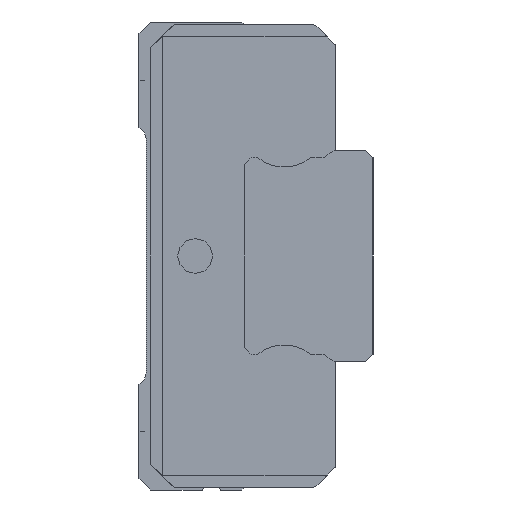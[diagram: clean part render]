
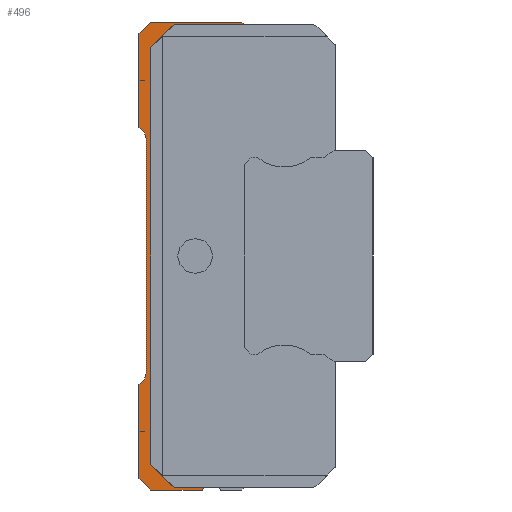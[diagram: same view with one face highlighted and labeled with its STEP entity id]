
A CAD part, left-side view. The second image highlights one B-rep face of the part: STEP entity #496.
In plain terms, the highlighted planar face has unit normal (-1, 0, 0).
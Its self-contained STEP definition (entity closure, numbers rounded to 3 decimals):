
#496 = ADVANCED_FACE( '', ( #1398 ), #1399, .F. );
#1398 = FACE_OUTER_BOUND( '', #2300, .T. );
#1399 = PLANE( '', #2301 );
#2300 = EDGE_LOOP( '', ( #5255, #5256, #5257, #5258, #5259, #5260, #5261, #5262, #5263, #5264, #5265, #5266, #5267, #5268, #5269, #5270, #5271, #5272 ) );
#2301 = AXIS2_PLACEMENT_3D( '', #5273, #5274, #5275 );
#5255 = ORIENTED_EDGE( '', *, *, #6057, .T. );
#5256 = ORIENTED_EDGE( '', *, *, #6201, .F. );
#5257 = ORIENTED_EDGE( '', *, *, #6199, .F. );
#5258 = ORIENTED_EDGE( '', *, *, #6197, .F. );
#5259 = ORIENTED_EDGE( '', *, *, #6195, .F. );
#5260 = ORIENTED_EDGE( '', *, *, #6193, .F. );
#5261 = ORIENTED_EDGE( '', *, *, #6191, .F. );
#5262 = ORIENTED_EDGE( '', *, *, #6189, .F. );
#5263 = ORIENTED_EDGE( '', *, *, #6187, .F. );
#5264 = ORIENTED_EDGE( '', *, *, #6185, .F. );
#5265 = ORIENTED_EDGE( '', *, *, #6183, .F. );
#5266 = ORIENTED_EDGE( '', *, *, #6181, .F. );
#5267 = ORIENTED_EDGE( '', *, *, #6179, .F. );
#5268 = ORIENTED_EDGE( '', *, *, #6177, .F. );
#5269 = ORIENTED_EDGE( '', *, *, #6088, .T. );
#5270 = ORIENTED_EDGE( '', *, *, #6121, .T. );
#5271 = ORIENTED_EDGE( '', *, *, #6118, .T. );
#5272 = ORIENTED_EDGE( '', *, *, #6047, .T. );
#5273 = CARTESIAN_POINT( '', ( 484.75, 1.5, 0. ) );
#5274 = DIRECTION( '', ( 1., 0., 0. ) );
#5275 = DIRECTION( '', ( 0., 0., -1. ) );
#6047 = EDGE_CURVE( '', #7508, #7506, #7509, .T. );
#6057 = EDGE_CURVE( '', #7506, #7523, #7525, .T. );
#6088 = EDGE_CURVE( '', #7576, #7574, #7577, .T. );
#6118 = EDGE_CURVE( '', #7623, #7508, #7624, .T. );
#6121 = EDGE_CURVE( '', #7574, #7623, #7627, .T. );
#6177 = EDGE_CURVE( '', #7576, #7701, #7702, .T. );
#6179 = EDGE_CURVE( '', #7701, #7704, #7705, .T. );
#6181 = EDGE_CURVE( '', #7704, #7707, #7708, .T. );
#6183 = EDGE_CURVE( '', #7707, #7710, #7711, .T. );
#6185 = EDGE_CURVE( '', #7710, #7713, #7714, .T. );
#6187 = EDGE_CURVE( '', #7713, #7716, #7717, .T. );
#6189 = EDGE_CURVE( '', #7716, #7719, #7720, .T. );
#6191 = EDGE_CURVE( '', #7719, #7722, #7723, .T. );
#6193 = EDGE_CURVE( '', #7722, #7725, #7726, .T. );
#6195 = EDGE_CURVE( '', #7725, #7728, #7729, .T. );
#6197 = EDGE_CURVE( '', #7728, #7731, #7732, .T. );
#6199 = EDGE_CURVE( '', #7731, #7734, #7735, .T. );
#6201 = EDGE_CURVE( '', #7734, #7523, #7737, .T. );
#7506 = VERTEX_POINT( '', #9356 );
#7508 = VERTEX_POINT( '', #9359 );
#7509 = LINE( '', #9360, #9361 );
#7523 = VERTEX_POINT( '', #9383 );
#7525 = LINE( '', #9386, #9387 );
#7574 = VERTEX_POINT( '', #9460 );
#7576 = VERTEX_POINT( '', #9463 );
#7577 = LINE( '', #9464, #9465 );
#7623 = VERTEX_POINT( '', #9539 );
#7624 = LINE( '', #9540, #9541 );
#7627 = LINE( '', #9546, #9547 );
#7701 = VERTEX_POINT( '', #9663 );
#7702 = CIRCLE( '', #9664, 0.5 );
#7704 = VERTEX_POINT( '', #9667 );
#7705 = LINE( '', #9668, #9669 );
#7707 = VERTEX_POINT( '', #9672 );
#7708 = LINE( '', #9673, #9674 );
#7710 = VERTEX_POINT( '', #9677 );
#7711 = LINE( '', #9678, #9679 );
#7713 = VERTEX_POINT( '', #9682 );
#7714 = LINE( '', #9683, #9684 );
#7716 = VERTEX_POINT( '', #9687 );
#7717 = CIRCLE( '', #9688, 0.5 );
#7719 = VERTEX_POINT( '', #9691 );
#7720 = LINE( '', #9692, #9693 );
#7722 = VERTEX_POINT( '', #9696 );
#7723 = CIRCLE( '', #9697, 0.5 );
#7725 = VERTEX_POINT( '', #9700 );
#7726 = LINE( '', #9701, #9702 );
#7728 = VERTEX_POINT( '', #9705 );
#7729 = LINE( '', #9706, #9707 );
#7731 = VERTEX_POINT( '', #9710 );
#7732 = LINE( '', #9711, #9712 );
#7734 = VERTEX_POINT( '', #9715 );
#7735 = LINE( '', #9716, #9717 );
#7737 = LINE( '', #9720, #9721 );
#9356 = CARTESIAN_POINT( '', ( 484.75, 8.5, 9.9 ) );
#9359 = CARTESIAN_POINT( '', ( 484.75, 9.5, 8.9 ) );
#9360 = CARTESIAN_POINT( '', ( 484.75, 9.725, 8.675 ) );
#9361 = VECTOR( '', #11405, 1. );
#9383 = CARTESIAN_POINT( '', ( 484.75, 5.5, 9.9 ) );
#9386 = CARTESIAN_POINT( '', ( 484.75, 5., 9.9 ) );
#9387 = VECTOR( '', #11415, 1. );
#9460 = CARTESIAN_POINT( '', ( 484.75, 8.5, -9.9 ) );
#9463 = CARTESIAN_POINT( '', ( 484.75, 7.2, -9.9 ) );
#9464 = CARTESIAN_POINT( '', ( 484.75, 2.1, -9.9 ) );
#9465 = VECTOR( '', #11456, 1. );
#9539 = CARTESIAN_POINT( '', ( 484.75, 9.5, -8.9 ) );
#9540 = CARTESIAN_POINT( '', ( 484.75, 9.5, -4.45 ) );
#9541 = VECTOR( '', #11488, 1. );
#9546 = CARTESIAN_POINT( '', ( 484.75, 9.225, -9.175 ) );
#9547 = VECTOR( '', #11491, 1. );
#9663 = CARTESIAN_POINT( '', ( 484.75, 7.3, -10. ) );
#9664 = AXIS2_PLACEMENT_3D( '', #11573, #11574, #11575 );
#9667 = CARTESIAN_POINT( '', ( 484.75, 9.5, -10. ) );
#9668 = CARTESIAN_POINT( '', ( 484.75, 7.3, -10. ) );
#9669 = VECTOR( '', #11577, 1. );
#9672 = CARTESIAN_POINT( '', ( 484.75, 10., -9.5 ) );
#9673 = CARTESIAN_POINT( '', ( 484.75, 9.5, -10. ) );
#9674 = VECTOR( '', #11579, 1. );
#9677 = CARTESIAN_POINT( '', ( 484.75, 10., -5.5 ) );
#9678 = CARTESIAN_POINT( '', ( 484.75, 10., -9.5 ) );
#9679 = VECTOR( '', #11581, 1. );
#9682 = CARTESIAN_POINT( '', ( 484.75, 9.855, -5.362 ) );
#9683 = CARTESIAN_POINT( '', ( 484.75, 10., -5.5 ) );
#9684 = VECTOR( '', #11583, 1. );
#9687 = CARTESIAN_POINT( '', ( 484.75, 9.7, -5. ) );
#9688 = AXIS2_PLACEMENT_3D( '', #11585, #11586, #11587 );
#9691 = CARTESIAN_POINT( '', ( 484.75, 9.7, 5. ) );
#9692 = CARTESIAN_POINT( '', ( 484.75, 9.7, -5. ) );
#9693 = VECTOR( '', #11589, 1. );
#9696 = CARTESIAN_POINT( '', ( 484.75, 9.855, 5.362 ) );
#9697 = AXIS2_PLACEMENT_3D( '', #11591, #11592, #11593 );
#9700 = CARTESIAN_POINT( '', ( 484.75, 10., 5.5 ) );
#9701 = CARTESIAN_POINT( '', ( 484.75, 9.855, 5.362 ) );
#9702 = VECTOR( '', #11595, 1. );
#9705 = CARTESIAN_POINT( '', ( 484.75, 10., 9.5 ) );
#9706 = CARTESIAN_POINT( '', ( 484.75, 10., 5.5 ) );
#9707 = VECTOR( '', #11597, 1. );
#9710 = CARTESIAN_POINT( '', ( 484.75, 9.5, 10. ) );
#9711 = CARTESIAN_POINT( '', ( 484.75, 10., 9.5 ) );
#9712 = VECTOR( '', #11599, 1. );
#9715 = CARTESIAN_POINT( '', ( 484.75, 5.6, 10. ) );
#9716 = CARTESIAN_POINT( '', ( 484.75, 9.5, 10. ) );
#9717 = VECTOR( '', #11601, 1. );
#9720 = CARTESIAN_POINT( '', ( 484.75, 5.6, 10. ) );
#9721 = VECTOR( '', #11603, 1. );
#11405 = DIRECTION( '', ( 0., -0.707, 0.707 ) );
#11415 = DIRECTION( '', ( 0., -1., 0. ) );
#11456 = DIRECTION( '', ( 0., 1., 0. ) );
#11488 = DIRECTION( '', ( 0., 0., 1. ) );
#11491 = DIRECTION( '', ( 0., 0.707, 0.707 ) );
#11573 = CARTESIAN_POINT( '', ( 484.75, 6.9, -10.3 ) );
#11574 = DIRECTION( '', ( -1., 0., 0. ) );
#11575 = DIRECTION( '', ( 0., -0.8, 0.6 ) );
#11577 = DIRECTION( '', ( 0., 1., 0. ) );
#11579 = DIRECTION( '', ( 0., 0.707, 0.707 ) );
#11581 = DIRECTION( '', ( 0., 0., 1. ) );
#11583 = DIRECTION( '', ( 0., -0.724, 0.69 ) );
#11585 = CARTESIAN_POINT( '', ( 484.75, 10.2, -5. ) );
#11586 = DIRECTION( '', ( -1., 0., 0. ) );
#11587 = DIRECTION( '', ( 0., -0.69, -0.724 ) );
#11589 = DIRECTION( '', ( 0., 0., 1. ) );
#11591 = CARTESIAN_POINT( '', ( 484.75, 10.2, 5. ) );
#11592 = DIRECTION( '', ( -1., 0., 0. ) );
#11593 = DIRECTION( '', ( 0., -1., 0. ) );
#11595 = DIRECTION( '', ( 0., 0.724, 0.69 ) );
#11597 = DIRECTION( '', ( 0., 0., 1. ) );
#11599 = DIRECTION( '', ( 0., -0.707, 0.707 ) );
#11601 = DIRECTION( '', ( 0., -1., 0. ) );
#11603 = DIRECTION( '', ( 0., -0.707, -0.707 ) );
